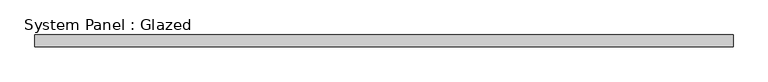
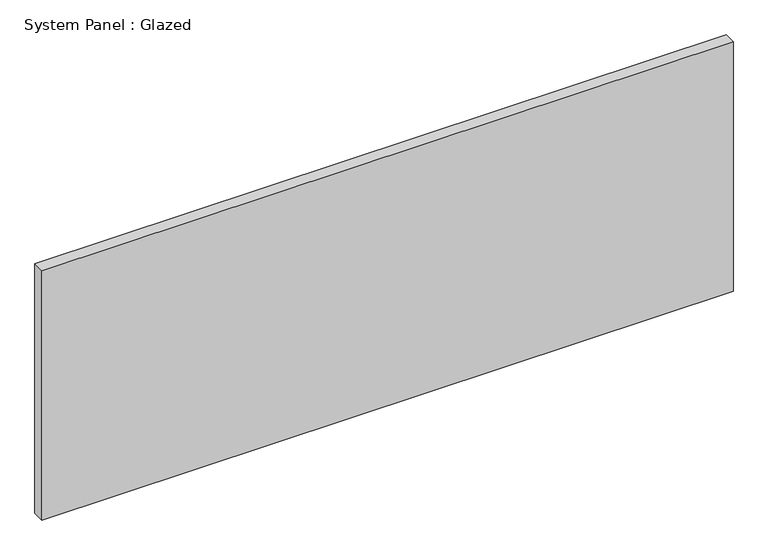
"""IFC4 building model written with IfcOpenShell, lengths in millimetres: plate geometry, System Panel : Glazed."""

import ifcopenshell
import ifcopenshell.guid

model = None  # the IFC model being written
_history = None  # IfcOwnerHistory: only IFC2X3 demands one
_inside = {}  # id of a spatial element -> (the spatial element, [elements in it])
_under = {}  # id of a project, library or spatial element -> (it, [spatial elements below it])
_declared = {}  # id of a project -> (the project, [libraries it declares])
_typed = {}  # id of a type object -> (the type object, [elements of that type])
_made_of = {}  # id of a material, layer set ... -> (it, [elements and type objects made of it])


def new_model(schema):
    """Start an empty IFC model of exactly this schema.

    Asked for "IFC4X3", IfcOpenShell would pick the latest addendum, in which some entities
    have other attributes; the version numbers below select the first issue.
    IFC2X3 requires an IfcOwnerHistory on every rooted entity: one is made here for all.
    """
    global model, _history
    if schema == "IFC4X3":
        model = ifcopenshell.file(schema_version=(4, 3, 0, 0))
    else:
        model = ifcopenshell.file(schema=schema)
    _inside.clear()
    _under.clear()
    _declared.clear()
    _typed.clear()
    _made_of.clear()
    _history = None
    if model.schema == "IFC2X3":
        org = make("IfcOrganization", Name="unknown")
        user = make(
            "IfcPersonAndOrganization",
            ThePerson=make("IfcPerson", FamilyName="unknown"),
            TheOrganization=org,
        )
        app = make(
            "IfcApplication",
            ApplicationDeveloper=org,
            Version="unknown",
            ApplicationFullName="unknown",
            ApplicationIdentifier="unknown",
        )
        _history = make(
            "IfcOwnerHistory",
            OwningUser=user,
            OwningApplication=app,
            ChangeAction="ADDED",
            CreationDate=0,
        )
    return model


def make(cls, **values):
    """One entity of the class cls with the attributes given. An attribute that is None is left unset."""
    return model.create_entity(
        cls, **{name: value for name, value in values.items() if value is not None}
    )


def rooted(cls, **values):
    """An entity with a GlobalId (a new one), such as an element, a storey or a relation."""
    return make(cls, GlobalId=ifcopenshell.guid.new(), OwnerHistory=_history, **values)


def si_unit(unit_type, name, prefix=None):
    """IfcSIUnit, for example si_unit("LENGTHUNIT", "METRE", prefix="MILLI")."""
    return make("IfcSIUnit", UnitType=unit_type, Prefix=prefix, Name=name)


def assignment(units):
    """IfcUnitAssignment: the units of a project."""
    return None if units is None else make("IfcUnitAssignment", Units=units)


def point(xyz):
    """IfcCartesianPoint."""
    return None if xyz is None else make("IfcCartesianPoint", Coordinates=xyz)


def direction(xyz):
    """IfcDirection."""
    return None if xyz is None else make("IfcDirection", DirectionRatios=xyz)


def frame(location, z_axis=None, x_axis=None):
    """IfcAxis2Placement3D, a coordinate frame: its origin and axes. An axis left out is left unset."""
    return make(
        "IfcAxis2Placement3D",
        Location=point(location),
        Axis=direction(z_axis),
        RefDirection=direction(x_axis),
    )


def origin():
    """The frame at (0, 0, 0) with its axes left unset."""
    return frame((0.0, 0.0, 0.0))


def origin_with_axes():
    """The frame at (0, 0, 0) with the z axis (0, 0, 1) and the x axis (1, 0, 0) written out."""
    return frame((0.0, 0.0, 0.0), z_axis=(0.0, 0.0, 1.0), x_axis=(1.0, 0.0, 0.0))


def place(relative_to, where):
    """IfcLocalPlacement: puts the frame where relative to a parent placement (None: the world)."""
    return make(
        "IfcLocalPlacement", PlacementRelTo=relative_to, RelativePlacement=where
    )


def context(
    kind, dimensions, precision=None, world=None, true_north=None, identifier=None
):
    """IfcGeometricRepresentationContext, for example the 3D "Model" context."""
    return make(
        "IfcGeometricRepresentationContext",
        ContextIdentifier=identifier,
        ContextType=kind,
        CoordinateSpaceDimension=dimensions,
        Precision=precision,
        WorldCoordinateSystem=world,
        TrueNorth=true_north,
    )


def project(units=None, contexts=None):
    """IfcProject with its units and contexts."""
    return rooted(
        "IfcProject",
        Name="project",
        RepresentationContexts=contexts,
        UnitsInContext=assignment(units),
    )


def spatial(cls, under=None, at=None, **own):
    """A site, building, storey or space (cls), placed at a placement, below another one or the project."""
    s = rooted(cls, ObjectPlacement=at, **own)
    if under is not None:
        _under.setdefault(under.id(), (under, []))[1].append(s)
    return s


def polyline(points):
    """IfcPolyline through the points."""
    return make("IfcPolyline", Points=[point(p) for p in points])


def outline(outer, holes=None, kind="AREA"):
    """IfcArbitraryClosedProfileDef: a profile drawn as a closed curve; with holes, ...WithVoids."""
    if holes is None:
        return make("IfcArbitraryClosedProfileDef", ProfileType=kind, OuterCurve=outer)
    return make(
        "IfcArbitraryProfileDefWithVoids",
        ProfileType=kind,
        OuterCurve=outer,
        InnerCurves=holes,
    )


def extrude(swept, where, along, depth):
    """IfcExtrudedAreaSolid: the profile swept, set in the frame where, extruded along a direction by depth."""
    return make(
        "IfcExtrudedAreaSolid",
        SweptArea=swept,
        Position=where,
        ExtrudedDirection=direction(along),
        Depth=depth,
    )


def shape(context_of_items, identifier, shape_type, items):
    """IfcShapeRepresentation: the items that make up one representation, for example the "Body"."""
    return make(
        "IfcShapeRepresentation",
        ContextOfItems=context_of_items,
        RepresentationIdentifier=identifier,
        RepresentationType=shape_type,
        Items=items,
    )


def source(mapping_origin, context_of_items, identifier, shape_type, items):
    """IfcRepresentationMap: a shape defined once, which mapped items show again and again."""
    return make(
        "IfcRepresentationMap",
        MappingOrigin=mapping_origin,
        MappedRepresentation=shape(context_of_items, identifier, shape_type, items),
    )


def transform(
    local_origin,
    x_axis=None,
    y_axis=None,
    z_axis=None,
    scale=None,
    scale2=None,
    scale3=None,
    uniform=True,
):
    """IfcCartesianTransformationOperator3D, or its non-uniform kind. x_axis, y_axis, z_axis: its Axis1, 2, 3."""
    if uniform:
        return make(
            "IfcCartesianTransformationOperator3D",
            Axis1=direction(x_axis),
            Axis2=direction(y_axis),
            LocalOrigin=point(local_origin),
            Scale=scale,
            Axis3=direction(z_axis),
        )
    return make(
        "IfcCartesianTransformationOperator3DnonUniform",
        Axis1=direction(x_axis),
        Axis2=direction(y_axis),
        LocalOrigin=point(local_origin),
        Scale=scale,
        Axis3=direction(z_axis),
        Scale2=scale2,
        Scale3=scale3,
    )


def mapped(mapping_source, mapping_target):
    """IfcMappedItem: shows the shape of a source again, moved by a transform."""
    return make(
        "IfcMappedItem", MappingSource=mapping_source, MappingTarget=mapping_target
    )


def made_of(thing, what):
    """Note that an element or type object is made of a material, layer set ...; save() writes the relation."""
    if what is not None:
        _made_of.setdefault(what.id(), (what, []))[1].append(thing)
    return thing


def element(
    cls,
    number,
    at=None,
    inside=None,
    cuts=None,
    type_object=None,
    material=None,
    context=None,
    identifier="Body",
    shape_type=None,
    held_by="IfcProductDefinitionShape",
    body=None,
    shapes=None,
    **own,
):
    """One element of the class cls, such as IfcWall. Its Tag is "e" and its number.

    at: its placement. inside: the storey or other place that contains it. cuts: it is an
    opening in that element (IfcRelVoidsElement). A single representation is given by context,
    identifier, shape_type and body (its items); several are given by shapes. held_by: the class
    of the entity that holds the representations. save() writes the other relations.
    """
    e = rooted(cls, Tag="e%d" % number, ObjectPlacement=at, **own)
    if body is not None:
        shapes = [shape(context, identifier, shape_type, body)]
    if shapes is not None:
        e.Representation = make(held_by, Representations=shapes)
    if inside is not None:
        _inside.setdefault(inside.id(), (inside, []))[1].append(e)
    if cuts is not None:
        rooted(
            "IfcRelVoidsElement", RelatingBuildingElement=cuts, RelatedOpeningElement=e
        )
    if type_object is not None:
        _typed.setdefault(type_object.id(), (type_object, []))[1].append(e)
    return made_of(e, material)


def aggregate(whole, parts):
    """IfcRelAggregates: a whole, such as a stair, and the parts it consists of."""
    return rooted("IfcRelAggregates", RelatingObject=whole, RelatedObjects=parts)


def save(model, path):
    """Write the relations noted so far, then the file.

    IfcRelAggregates (storeys below a building ...), IfcRelContainedInSpatialStructure (elements
    in a storey), IfcRelDefinesByType, IfcRelAssociatesMaterial and IfcRelDeclares: one each for
    every whole, place, type object, material and project.
    """
    for whole, parts in _under.values():
        aggregate(whole, parts)
    for where, things in _inside.values():
        rooted(
            "IfcRelContainedInSpatialStructure",
            RelatedElements=things,
            RelatingStructure=where,
        )
    for kind, things in _typed.values():
        rooted("IfcRelDefinesByType", RelatedObjects=things, RelatingType=kind)
    for what, things in _made_of.values():
        rooted("IfcRelAssociatesMaterial", RelatedObjects=things, RelatingMaterial=what)
    for by, libraries in _declared.values():
        rooted("IfcRelDeclares", RelatingContext=by, RelatedDefinitions=libraries)
    model.write(path)


def system_panel_glazed_c0d17033(model_context):
    return source(origin(), model_context, "Body", "SweptSolid", [
        extrude(outline(polyline([(749.3, 19.05), (-749.3, 19.05), (-749.3, 44.45), (749.3, 44.45), (749.3, 19.05)])), origin_with_axes(), (0.0, 0.0, 1.0), 571.5),
    ])


if __name__ == "__main__":
    model = new_model("IFC4")
    model_context = context("Model", 3, world=origin())
    ifc_project = project(units=[si_unit("LENGTHUNIT", "METRE", prefix="MILLI")], contexts=[model_context])
    site = spatial("IfcSite", under=ifc_project)
    building = spatial("IfcBuilding", under=site)
    placement = place(None, origin())
    system_panel_glazed_shape = system_panel_glazed_c0d17033(model_context)
    element("IfcPlate", 1, ObjectType="System Panel : Glazed", at=placement, inside=building, context=model_context, shape_type="MappedRepresentation", body=[
        mapped(system_panel_glazed_shape, transform((0.0, 0.0, 0.0), x_axis=(1.0, 0.0, 0.0), y_axis=(0.0, 1.0, 0.0), z_axis=(0.0, 0.0, 1.0))),
    ])
    save(model, "model.ifc")
